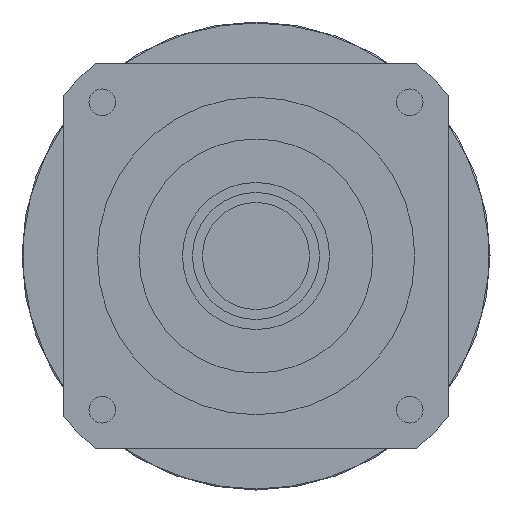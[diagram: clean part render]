
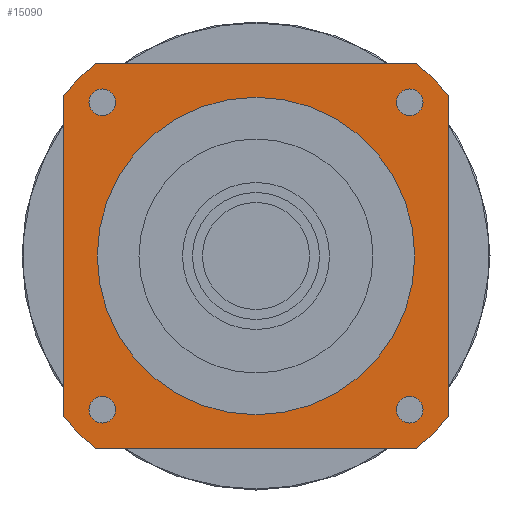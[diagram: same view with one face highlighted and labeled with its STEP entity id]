
A CAD part, left-side view. The second image highlights one B-rep face of the part: STEP entity #15090.
In plain terms, the highlighted planar face has unit normal (-1, 0, 0) as drawn and (0, 0, -1) by its records, which use the part's own axes.
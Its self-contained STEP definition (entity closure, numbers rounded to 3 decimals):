
#10570=CARTESIAN_POINT('',(57.5,-48.153,-84.7));
#10580=VERTEX_POINT('',#10570);
#10630=CARTESIAN_POINT('',(0.,0.,
-84.7));
#10640=DIRECTION('',(0.,0.,-1.));
#10650=DIRECTION('',(1.,0.,0.));
#10660=AXIS2_PLACEMENT_3D('',#10630,#10640,#10650);
#10670=CIRCLE('',#10660,75.);
#10680=CARTESIAN_POINT('',(48.153,-57.5,-84.7));
#10690=VERTEX_POINT('',#10680);
#10700=EDGE_CURVE('',#10580,#10690,#10670,.T.);
#13180=CARTESIAN_POINT('',(57.5,48.153,-84.7));
#13190=VERTEX_POINT('',#13180);
#13220=CARTESIAN_POINT('',(57.5,57.5,-84.7));
#13230=DIRECTION('',(0.,-1.,0.));
#13240=VECTOR('',#13230,1000.);
#13250=LINE('',#13220,#13240);
#13260=EDGE_CURVE('',#13190,#10580,#13250,.T.);
#13420=CARTESIAN_POINT('',(48.153,57.5,-84.7));
#13430=VERTEX_POINT('',#13420);
#13460=CARTESIAN_POINT('',(0.,0.,
-84.7));
#13470=DIRECTION('',(0.,0.,-1.));
#13480=DIRECTION('',(1.,0.,0.));
#13490=AXIS2_PLACEMENT_3D('',#13460,#13470,#13480);
#13500=CIRCLE('',#13490,75.);
#13510=EDGE_CURVE('',#13430,#13190,#13500,.T.);
#13670=CARTESIAN_POINT('',(-48.153,-57.5,-84.7));
#13680=VERTEX_POINT('',#13670);
#13710=CARTESIAN_POINT('',(0.,0.,
-84.7));
#13720=DIRECTION('',(0.,0.,-1.));
#13730=DIRECTION('',(1.,0.,0.));
#13740=AXIS2_PLACEMENT_3D('',#13710,#13720,#13730);
#13750=CIRCLE('',#13740,75.);
#13760=CARTESIAN_POINT('',(-57.5,-48.153,-84.7));
#13770=VERTEX_POINT('',#13760);
#13780=EDGE_CURVE('',#13680,#13770,#13750,.T.);
#13900=CARTESIAN_POINT('',(57.5,57.5,-84.7));
#13910=DIRECTION('',(0.,0.,-1.));
#13920=DIRECTION('',(1.,0.,0.));
#13930=AXIS2_PLACEMENT_3D('',#13900,#13910,#13920);
#13940=PLANE('',#13930);
#13950=CARTESIAN_POINT('',(-45.962,45.962,-84.7));
#13960=DIRECTION('',(0.,0.,-1.));
#13970=DIRECTION('',(-1.,0.,0.));
#13980=AXIS2_PLACEMENT_3D('',#13950,#13960,#13970);
#13990=CIRCLE('',#13980,4.);
#14000=CARTESIAN_POINT('',(-49.962,45.962,-84.7));
#14010=VERTEX_POINT('',#14000);
#14020=CARTESIAN_POINT('',(-41.962,45.962,-84.7));
#14030=VERTEX_POINT('',#14020);
#14040=EDGE_CURVE('',#14010,#14030,#13990,.T.);
#14050=ORIENTED_EDGE('',*,*,#14040,.F.);
#14060=EDGE_CURVE('',#14030,#14010,#13990,.T.);
#14070=ORIENTED_EDGE('',*,*,#14060,.F.);
#14080=EDGE_LOOP('',(#14070,#14050));
#14090=FACE_BOUND('',#14080,.T.);
#14100=CARTESIAN_POINT('',(45.962,45.962,-84.7));
#14110=DIRECTION('',(0.,0.,-1.));
#14120=DIRECTION('',(0.,1.,0.));
#14130=AXIS2_PLACEMENT_3D('',#14100,#14110,#14120);
#14140=CIRCLE('',#14130,4.);
#14150=CARTESIAN_POINT('',(45.962,49.962,-84.7));
#14160=VERTEX_POINT('',#14150);
#14170=CARTESIAN_POINT('',(45.962,41.962,-84.7));
#14180=VERTEX_POINT('',#14170);
#14190=EDGE_CURVE('',#14160,#14180,#14140,.T.);
#14200=ORIENTED_EDGE('',*,*,#14190,.F.);
#14210=EDGE_CURVE('',#14180,#14160,#14140,.T.);
#14220=ORIENTED_EDGE('',*,*,#14210,.F.);
#14230=EDGE_LOOP('',(#14220,#14200));
#14240=FACE_BOUND('',#14230,.T.);
#14250=CARTESIAN_POINT('',(0.,0.,
-84.7));
#14260=DIRECTION('',(0.,0.,1.));
#14270=DIRECTION('',(0.,1.,0.));
#14280=AXIS2_PLACEMENT_3D('',#14250,#14260,#14270);
#14290=CIRCLE('',#14280,47.5);
#14300=CARTESIAN_POINT('',(-47.5,0.,-84.7));
#14310=VERTEX_POINT('',#14300);
#14320=CARTESIAN_POINT('',(47.5,0.,-84.7));
#14330=VERTEX_POINT('',#14320);
#14340=EDGE_CURVE('',#14310,#14330,#14290,.T.);
#14350=ORIENTED_EDGE('',*,*,#14340,.T.);
#14360=CARTESIAN_POINT('',(0.,47.5,-84.7));
#14370=VERTEX_POINT('',#14360);
#14380=EDGE_CURVE('',#14370,#14310,#14290,.T.);
#14390=ORIENTED_EDGE('',*,*,#14380,.T.);
#14400=EDGE_CURVE('',#14330,#14370,#14290,.T.);
#14410=ORIENTED_EDGE('',*,*,#14400,.T.);
#14420=EDGE_LOOP('',(#14410,#14390,#14350));
#14430=FACE_BOUND('',#14420,.T.);
#14440=CARTESIAN_POINT('',(45.962,-45.962,-84.7));
#14450=DIRECTION('',(0.,0.,-1.));
#14460=DIRECTION('',(1.,0.,0.));
#14470=AXIS2_PLACEMENT_3D('',#14440,#14450,#14460);
#14480=CIRCLE('',#14470,4.);
#14490=CARTESIAN_POINT('',(49.962,-45.962,-84.7));
#14500=VERTEX_POINT('',#14490);
#14510=CARTESIAN_POINT('',(41.962,-45.962,-84.7));
#14520=VERTEX_POINT('',#14510);
#14530=EDGE_CURVE('',#14500,#14520,#14480,.T.);
#14540=ORIENTED_EDGE('',*,*,#14530,.F.);
#14550=EDGE_CURVE('',#14520,#14500,#14480,.T.);
#14560=ORIENTED_EDGE('',*,*,#14550,.F.);
#14570=EDGE_LOOP('',(#14560,#14540));
#14580=FACE_BOUND('',#14570,.T.);
#14590=CARTESIAN_POINT('',(-45.962,-45.962,-84.7));
#14600=DIRECTION('',(0.,0.,-1.));
#14610=DIRECTION('',(0.,-1.,0.));
#14620=AXIS2_PLACEMENT_3D('',#14590,#14600,#14610);
#14630=CIRCLE('',#14620,4.);
#14640=CARTESIAN_POINT('',(-45.962,-49.962,-84.7));
#14650=VERTEX_POINT('',#14640);
#14660=CARTESIAN_POINT('',(-45.962,-41.962,-84.7));
#14670=VERTEX_POINT('',#14660);
#14680=EDGE_CURVE('',#14650,#14670,#14630,.T.);
#14690=ORIENTED_EDGE('',*,*,#14680,.F.);
#14700=EDGE_CURVE('',#14670,#14650,#14630,.T.);
#14710=ORIENTED_EDGE('',*,*,#14700,.F.);
#14720=EDGE_LOOP('',(#14710,#14690));
#14730=FACE_BOUND('',#14720,.T.);
#14740=CARTESIAN_POINT('',(-57.5,57.5,-84.7));
#14750=DIRECTION('',(1.,0.,0.));
#14760=VECTOR('',#14750,1000.);
#14770=LINE('',#14740,#14760);
#14780=CARTESIAN_POINT('',(-48.153,57.5,-84.7));
#14790=VERTEX_POINT('',#14780);
#14800=EDGE_CURVE('',#14790,#13430,#14770,.T.);
#14810=ORIENTED_EDGE('',*,*,#14800,.T.);
#14820=CARTESIAN_POINT('',(0.,0.,
-84.7));
#14830=DIRECTION('',(0.,0.,-1.));
#14840=DIRECTION('',(1.,0.,0.));
#14850=AXIS2_PLACEMENT_3D('',#14820,#14830,#14840);
#14860=CIRCLE('',#14850,75.);
#14870=CARTESIAN_POINT('',(-57.5,48.153,-84.7));
#14880=VERTEX_POINT('',#14870);
#14890=EDGE_CURVE('',#14880,#14790,#14860,.T.);
#14900=ORIENTED_EDGE('',*,*,#14890,.T.);
#14910=CARTESIAN_POINT('',(-57.5,-57.5,-84.7));
#14920=DIRECTION('',(0.,1.,0.));
#14930=VECTOR('',#14920,1000.);
#14940=LINE('',#14910,#14930);
#14950=EDGE_CURVE('',#13770,#14880,#14940,.T.);
#14960=ORIENTED_EDGE('',*,*,#14950,.T.);
#14970=ORIENTED_EDGE('',*,*,#13780,.T.);
#14980=CARTESIAN_POINT('',(57.5,-57.5,-84.7));
#14990=DIRECTION('',(-1.,0.,0.));
#15000=VECTOR('',#14990,1000.);
#15010=LINE('',#14980,#15000);
#15020=EDGE_CURVE('',#10690,#13680,#15010,.T.);
#15030=ORIENTED_EDGE('',*,*,#15020,.T.);
#15040=ORIENTED_EDGE('',*,*,#10700,.T.);
#15050=ORIENTED_EDGE('',*,*,#13260,.T.);
#15060=ORIENTED_EDGE('',*,*,#13510,.T.);
#15070=EDGE_LOOP('',(#15060,#15050,#15040,#15030,#14970,#14960,#14900,
#14810));
#15080=FACE_OUTER_BOUND('',#15070,.T.);
#15090=ADVANCED_FACE('',(#14090,#14240,#14430,#14580,#14730,#15080),
#13940,.T.);
